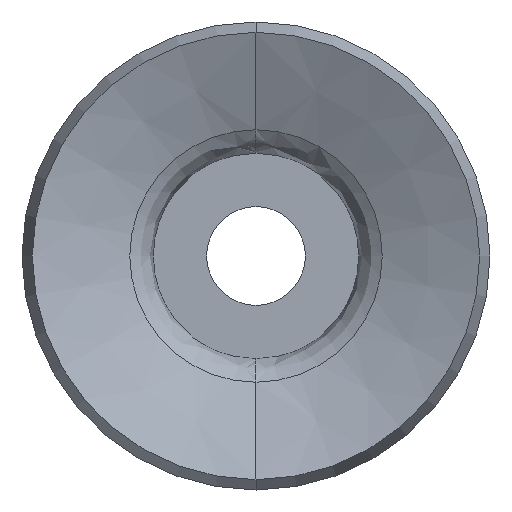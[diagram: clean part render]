
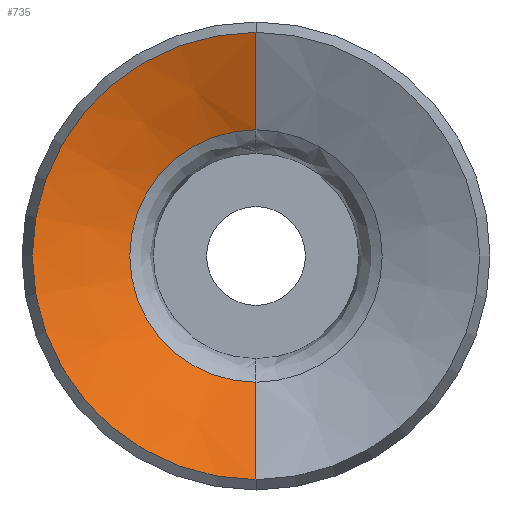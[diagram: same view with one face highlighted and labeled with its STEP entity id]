
A CAD part, front view. The second image highlights one B-rep face of the part: STEP entity #735.
In plain terms, the highlighted conical face has half-angle 66.583 degrees and reference radius 4.854 mm.
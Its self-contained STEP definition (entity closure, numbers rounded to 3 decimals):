
#32 = DIRECTION ( 'NONE',  ( 0., -1., 0. ) ) ;
#75 = DIRECTION ( 'NONE',  ( 0., 0., -1. ) ) ;
#85 = VECTOR ( 'NONE', #442, 1000. ) ;
#127 = VECTOR ( 'NONE', #208, 1000. ) ;
#136 = EDGE_LOOP ( 'NONE', ( #149, #498, #1057, #240 ) ) ;
#142 = AXIS2_PLACEMENT_3D ( 'NONE', #590, #324, #75 ) ;
#143 = EDGE_CURVE ( 'NONE', #265, #1113, #494, .T. ) ;
#149 = ORIENTED_EDGE ( 'NONE', *, *, #143, .T. ) ;
#207 = CARTESIAN_POINT ( 'NONE',  ( 0., -14.876, 0. ) ) ;
#208 = DIRECTION ( 'NONE',  ( 0., -0.397, -0.918 ) ) ;
#240 = ORIENTED_EDGE ( 'NONE', *, *, #326, .F. ) ;
#251 = LINE ( 'NONE', #841, #85 ) ;
#265 = VERTEX_POINT ( 'NONE', #353 ) ;
#303 = CARTESIAN_POINT ( 'NONE',  ( 0., -14.876, -4.854 ) ) ;
#306 = DIRECTION ( 'NONE',  ( 0., -1., 0. ) ) ;
#324 = DIRECTION ( 'NONE',  ( 0., 1., 0. ) ) ;
#326 = EDGE_CURVE ( 'NONE', #265, #860, #470, .T. ) ;
#343 = CARTESIAN_POINT ( 'NONE',  ( 0., -16.5, -8.603 ) ) ;
#353 = CARTESIAN_POINT ( 'NONE',  ( 0., -14.876, -4.854 ) ) ;
#442 = DIRECTION ( 'NONE',  ( 0., -0.397, 0.918 ) ) ;
#470 = LINE ( 'NONE', #303, #127 ) ;
#494 = CIRCLE ( 'NONE', #142, 4.854 ) ;
#498 = ORIENTED_EDGE ( 'NONE', *, *, #861, .T. ) ;
#561 = DIRECTION ( 'NONE',  ( 0., 0., -1. ) ) ;
#590 = CARTESIAN_POINT ( 'NONE',  ( 0., -14.876, 0. ) ) ;
#612 = CIRCLE ( 'NONE', #844, 8.603 ) ;
#617 = FACE_OUTER_BOUND ( 'NONE', #136, .T. ) ;
#622 = VERTEX_POINT ( 'NONE', #624 ) ;
#624 = CARTESIAN_POINT ( 'NONE',  ( 0., -16.5, 8.603 ) ) ;
#735 = ADVANCED_FACE ( 'NONE', ( #617 ), #1086, .F. ) ;
#742 = DIRECTION ( 'NONE',  ( 0., 0., 1. ) ) ;
#805 = CARTESIAN_POINT ( 'NONE',  ( 0., -14.876, 4.854 ) ) ;
#839 = EDGE_CURVE ( 'NONE', #622, #860, #612, .T. ) ;
#841 = CARTESIAN_POINT ( 'NONE',  ( 0., -14.876, 4.854 ) ) ;
#844 = AXIS2_PLACEMENT_3D ( 'NONE', #1092, #306, #742 ) ;
#860 = VERTEX_POINT ( 'NONE', #343 ) ;
#861 = EDGE_CURVE ( 'NONE', #1113, #622, #251, .T. ) ;
#1022 = AXIS2_PLACEMENT_3D ( 'NONE', #207, #32, #561 ) ;
#1057 = ORIENTED_EDGE ( 'NONE', *, *, #839, .T. ) ;
#1086 = CONICAL_SURFACE ( 'NONE', #1022, 4.854, 1.162 ) ;
#1092 = CARTESIAN_POINT ( 'NONE',  ( 0., -16.5, 0. ) ) ;
#1113 = VERTEX_POINT ( 'NONE', #805 ) ;
